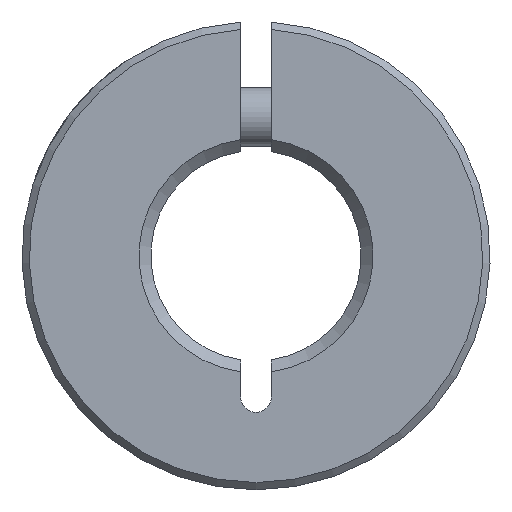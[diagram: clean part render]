
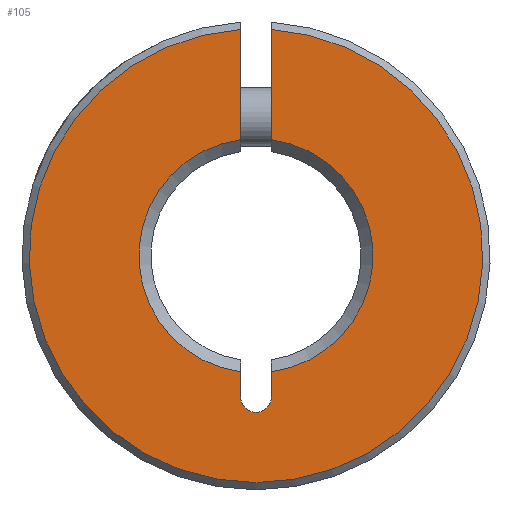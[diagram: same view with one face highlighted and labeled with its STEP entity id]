
A CAD part, left-side view. The second image highlights one B-rep face of the part: STEP entity #105.
In plain terms, the highlighted planar face has unit normal (-1, 0, 0).
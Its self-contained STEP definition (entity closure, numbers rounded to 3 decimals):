
#105 = ADVANCED_FACE( '', ( #178 ), #179, .F. );
#178 = FACE_OUTER_BOUND( '', #251, .T. );
#179 = PLANE( '', #252 );
#251 = EDGE_LOOP( '', ( #473, #474, #475, #476, #477, #478, #479, #480 ) );
#252 = AXIS2_PLACEMENT_3D( '', #481, #482, #483 );
#473 = ORIENTED_EDGE( '', *, *, #550, .T. );
#474 = ORIENTED_EDGE( '', *, *, #517, .T. );
#475 = ORIENTED_EDGE( '', *, *, #526, .T. );
#476 = ORIENTED_EDGE( '', *, *, #508, .F. );
#477 = ORIENTED_EDGE( '', *, *, #504, .T. );
#478 = ORIENTED_EDGE( '', *, *, #513, .T. );
#479 = ORIENTED_EDGE( '', *, *, #488, .T. );
#480 = ORIENTED_EDGE( '', *, *, #552, .T. );
#481 = CARTESIAN_POINT( '', ( -5.5, 0., 0. ) );
#482 = DIRECTION( '', ( 1., 0., 0. ) );
#483 = DIRECTION( '', ( 0., 0., -1. ) );
#488 = EDGE_CURVE( '', #562, #560, #563, .T. );
#504 = EDGE_CURVE( '', #579, #592, #594, .T. );
#508 = EDGE_CURVE( '', #579, #600, #601, .T. );
#513 = EDGE_CURVE( '', #592, #562, #607, .T. );
#517 = EDGE_CURVE( '', #614, #612, #615, .T. );
#526 = EDGE_CURVE( '', #612, #600, #626, .T. );
#550 = EDGE_CURVE( '', #667, #614, #668, .T. );
#552 = EDGE_CURVE( '', #560, #667, #670, .T. );
#560 = VERTEX_POINT( '', #683 );
#562 = VERTEX_POINT( '', #686 );
#563 = LINE( '', #687, #688 );
#579 = VERTEX_POINT( '', #784 );
#592 = VERTEX_POINT( '', #809 );
#594 = LINE( '', #814, #815 );
#600 = VERTEX_POINT( '', #824 );
#601 = CIRCLE( '', #825, 15.5 );
#607 = CIRCLE( '', #835, 8. );
#612 = VERTEX_POINT( '', #840 );
#614 = VERTEX_POINT( '', #845 );
#615 = CIRCLE( '', #846, 8. );
#626 = LINE( '', #864, #865 );
#667 = VERTEX_POINT( '', #924 );
#668 = LINE( '', #925, #926 );
#670 = CIRCLE( '', #929, 1.05 );
#683 = CARTESIAN_POINT( '', ( -5.5, -1.05, -9.65 ) );
#686 = CARTESIAN_POINT( '', ( -5.5, -1.05, -7.931 ) );
#687 = CARTESIAN_POINT( '', ( -5.5, -1.05, 0. ) );
#688 = VECTOR( '', #933, 1000. );
#784 = CARTESIAN_POINT( '', ( -5.5, -1.05, 15.464 ) );
#809 = CARTESIAN_POINT( '', ( -5.5, -1.05, 7.931 ) );
#814 = CARTESIAN_POINT( '', ( -5.5, -1.05, 21.333 ) );
#815 = VECTOR( '', #949, 1000. );
#824 = CARTESIAN_POINT( '', ( -5.5, 1.05, 15.464 ) );
#825 = AXIS2_PLACEMENT_3D( '', #956, #957, #958 );
#835 = AXIS2_PLACEMENT_3D( '', #966, #967, #968 );
#840 = CARTESIAN_POINT( '', ( -5.5, 1.05, 7.931 ) );
#845 = CARTESIAN_POINT( '', ( -5.5, 1.05, -7.931 ) );
#846 = AXIS2_PLACEMENT_3D( '', #975, #976, #977 );
#864 = CARTESIAN_POINT( '', ( -5.5, 1.05, 0. ) );
#865 = VECTOR( '', #991, 1000. );
#924 = CARTESIAN_POINT( '', ( -5.5, 1.05, -9.65 ) );
#925 = CARTESIAN_POINT( '', ( -5.5, 1.05, -9.65 ) );
#926 = VECTOR( '', #1025, 1000. );
#929 = AXIS2_PLACEMENT_3D( '', #1027, #1028, #1029 );
#933 = DIRECTION( '', ( 0., 0., -1. ) );
#949 = DIRECTION( '', ( 0., 0., -1. ) );
#956 = CARTESIAN_POINT( '', ( -5.5, 0., 0. ) );
#957 = DIRECTION( '', ( 1., 0., 0. ) );
#958 = DIRECTION( '', ( 0., 0., -1. ) );
#966 = CARTESIAN_POINT( '', ( -5.5, 0., 0. ) );
#967 = DIRECTION( '', ( 1., 0., 0. ) );
#968 = DIRECTION( '', ( 0., 0., -1. ) );
#975 = CARTESIAN_POINT( '', ( -5.5, 0., 0. ) );
#976 = DIRECTION( '', ( 1., 0., 0. ) );
#977 = DIRECTION( '', ( 0., 0., -1. ) );
#991 = DIRECTION( '', ( 0., 0., 1. ) );
#1025 = DIRECTION( '', ( 0., 0., 1. ) );
#1027 = CARTESIAN_POINT( '', ( -5.5, 0., -9.65 ) );
#1028 = DIRECTION( '', ( 1., 0., 0. ) );
#1029 = DIRECTION( '', ( 0., 0., -1. ) );
